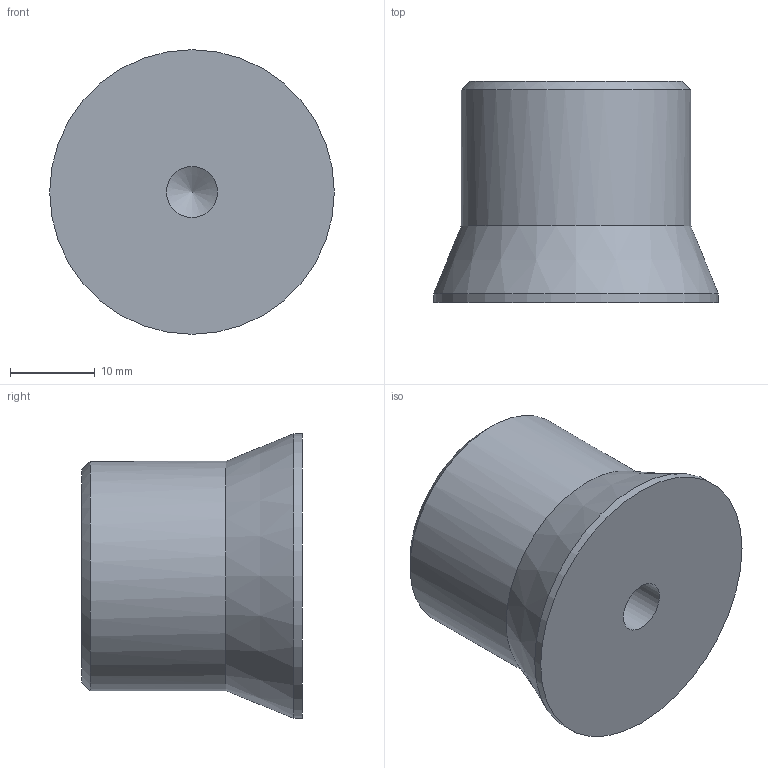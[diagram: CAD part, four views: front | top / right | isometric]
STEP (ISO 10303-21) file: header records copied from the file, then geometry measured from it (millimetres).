
FILE_DESCRIPTION( ( 'STEP AP203' ), '1' );
FILE_NAME( 'C:/Temp/Ganter_Step_05_03_2020/data/1_4/gn_726_2/gn_726_2_b/gn_726_2_b_2/Control knob GN 726.2-27-Z6-B-2.stp', '2020-03-05T10:50:03', ( 'License CC BY-ND 4.0' ), ( 'CADENAS' ), ' ', 'PARTsolutions', ' ' );
FILE_SCHEMA( ( 'CONFIG_CONTROL_DESIGN' ) );
Length unit declared in the file: millimetre
Products named in the file (1): _Control knob GN 726.2-27-Z6-B-2
Bounding box: 33.5 x 26 x 33.5 mm (x, y, z)
Volume: 15711.4 mm3; surface area: 4101.1 mm2
Topology: 1 solids, 1 shells, 70 faces, 196 edges, 129 vertices
Faces by surface type: cylinder 38, plane 28, cone 4
Full cylindrical faces by diameter (mm): 6 x1, 27 x1, 33.5 x1
Entity records: 2363 total; most frequent: CARTESIAN_POINT 618, ORIENTED_EDGE 376, DIRECTION 317, EDGE_CURVE 188, VERTEX_POINT 129, AXIS2_PLACEMENT_3D 116, LINE 85, VECTOR 85
